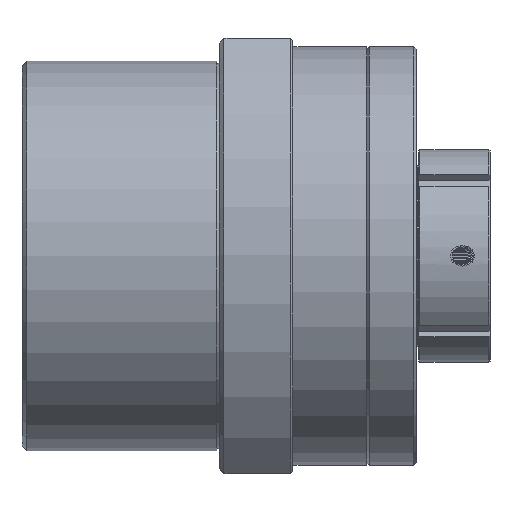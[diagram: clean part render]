
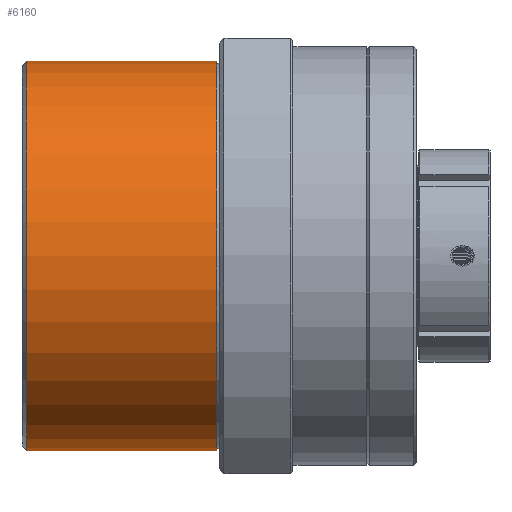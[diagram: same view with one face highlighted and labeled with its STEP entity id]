
A CAD part, top view. The second image highlights one B-rep face of the part: STEP entity #6160.
In plain terms, the highlighted cylindrical face has radius 47.5 mm (diameter 95 mm), a full revolution.
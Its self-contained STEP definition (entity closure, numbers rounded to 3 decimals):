
#6160=ADVANCED_FACE('',(#15777,#15778),#15779,.T.);
#6570=EDGE_CURVE('',#16429,#16429,#16430,.T.);
#10520=EDGE_CURVE('',#22282,#22282,#22283,.T.);
#15777=FACE_OUTER_BOUND('',#31445,.T.);
#15778=FACE_OUTER_BOUND('',#31446,.T.);
#15779=CYLINDRICAL_SURFACE('',#31447,47.5);
#16429=VERTEX_POINT('',#32708);
#16430=CIRCLE('',#32709,47.5);
#22282=VERTEX_POINT('',#44970);
#22283=CIRCLE('',#44971,47.5);
#31445=EDGE_LOOP('',(#53796));
#31446=EDGE_LOOP('',(#53797));
#31447=AXIS2_PLACEMENT_3D('',#53798,#53799,#53800);
#32708=CARTESIAN_POINT('',(47.4,0.0,47.5));
#32709=AXIS2_PLACEMENT_3D('',#54569,#54570,#54571);
#44970=CARTESIAN_POINT('',(1.2,0.0,47.5));
#44971=AXIS2_PLACEMENT_3D('',#62021,#62022,#62023);
#53796=ORIENTED_EDGE('',*,*,#10520,.T.);
#53797=ORIENTED_EDGE('',*,*,#6570,.F.);
#53798=CARTESIAN_POINT('',(24.3,0.0,0.0));
#53799=DIRECTION('',(-1.0,0.0,0.0));
#53800=DIRECTION('',(0.0,0.0,1.0));
#54569=CARTESIAN_POINT('',(47.4,0.0,0.0));
#54570=DIRECTION('',(1.0,0.0,-0.0));
#54571=DIRECTION('',(0.0,0.0,1.0));
#62021=CARTESIAN_POINT('',(1.2,0.0,0.0));
#62022=DIRECTION('',(1.0,0.0,-0.0));
#62023=DIRECTION('',(0.0,0.0,1.0));
